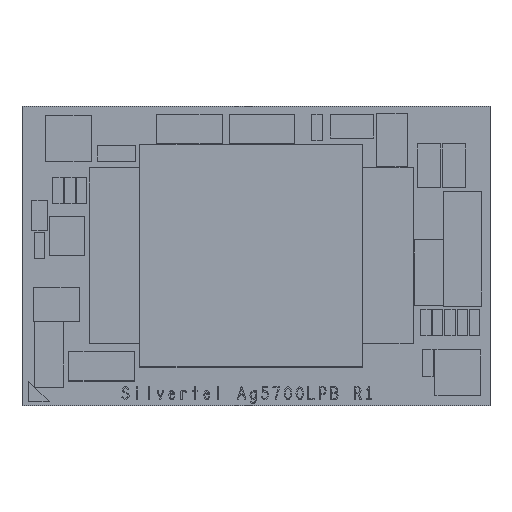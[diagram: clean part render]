
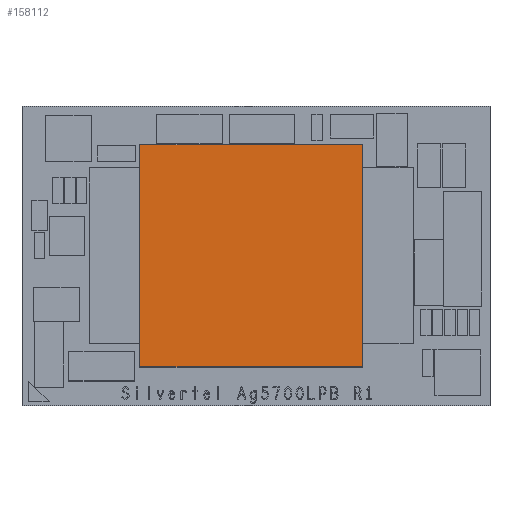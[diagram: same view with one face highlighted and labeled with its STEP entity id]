
A CAD part, top view. The second image highlights one B-rep face of the part: STEP entity #158112.
In plain terms, the highlighted face is a extrusion surface.
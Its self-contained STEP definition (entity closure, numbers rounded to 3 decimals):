
#158112 = ADVANCED_FACE('',(#158113),#158147,.T.);
#158113 = FACE_BOUND('',#158114,.T.);
#158114 = EDGE_LOOP('',(#158115,#158125,#158133,#158141));
#158115 = ORIENTED_EDGE('',*,*,#158116,.T.);
#158116 = EDGE_CURVE('',#158117,#158119,#158121,.T.);
#158117 = VERTEX_POINT('',#158118);
#158118 = CARTESIAN_POINT('',(21.717,15.596,9.017));
#158119 = VERTEX_POINT('',#158120);
#158120 = CARTESIAN_POINT('',(6.629,15.596,9.017));
#158121 = LINE('',#158122,#158123);
#158122 = CARTESIAN_POINT('',(21.717,15.596,9.017));
#158123 = VECTOR('',#158124,1.);
#158124 = DIRECTION('',(-1.,0.,0.));
#158125 = ORIENTED_EDGE('',*,*,#158126,.T.);
#158126 = EDGE_CURVE('',#158119,#158127,#158129,.T.);
#158127 = VERTEX_POINT('',#158128);
#158128 = CARTESIAN_POINT('',(6.629,0.508,9.017));
#158129 = LINE('',#158130,#158131);
#158130 = CARTESIAN_POINT('',(6.629,15.596,9.017));
#158131 = VECTOR('',#158132,1.);
#158132 = DIRECTION('',(0.,-1.,0.));
#158133 = ORIENTED_EDGE('',*,*,#158134,.T.);
#158134 = EDGE_CURVE('',#158127,#158135,#158137,.T.);
#158135 = VERTEX_POINT('',#158136);
#158136 = CARTESIAN_POINT('',(21.717,0.508,9.017));
#158137 = LINE('',#158138,#158139);
#158138 = CARTESIAN_POINT('',(6.629,0.508,9.017));
#158139 = VECTOR('',#158140,1.);
#158140 = DIRECTION('',(1.,0.,0.));
#158141 = ORIENTED_EDGE('',*,*,#158142,.T.);
#158142 = EDGE_CURVE('',#158135,#158117,#158143,.T.);
#158143 = LINE('',#158144,#158145);
#158144 = CARTESIAN_POINT('',(21.717,0.508,9.017));
#158145 = VECTOR('',#158146,1.);
#158146 = DIRECTION('',(0.,1.,0.));
#158147 = SURFACE_OF_LINEAR_EXTRUSION('',#158148,#158152);
#158148 = LINE('',#158149,#158150);
#158149 = CARTESIAN_POINT('',(6.629,0.508,9.017));
#158150 = VECTOR('',#158151,1.);
#158151 = DIRECTION('',(1.,0.,0.));
#158152 = VECTOR('',#158153,1.);
#158153 = DIRECTION('',(0.,1.,0.));
